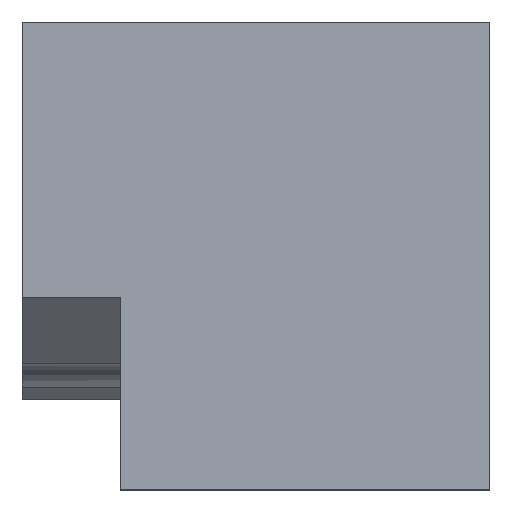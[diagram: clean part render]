
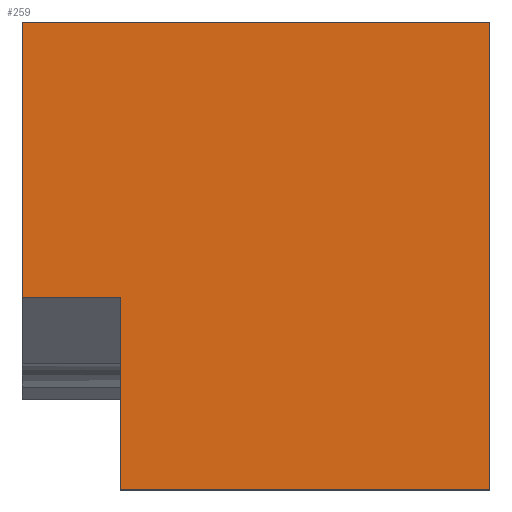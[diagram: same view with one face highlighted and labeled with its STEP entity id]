
A CAD part, top view. The second image highlights one B-rep face of the part: STEP entity #259.
In plain terms, the highlighted planar face has unit normal (0, 0, 1).
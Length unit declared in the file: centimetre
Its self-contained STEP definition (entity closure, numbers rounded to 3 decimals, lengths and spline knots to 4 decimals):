
#4 = EDGE_LOOP ( 'NONE', ( #295, #409, #300, #165, #25, #334 ) ) ;
#25 = ORIENTED_EDGE ( 'NONE', *, *, #272, .T. ) ;
#27 = CARTESIAN_POINT ( 'NONE',  ( 0., 0., 1000. ) ) ;
#28 = EDGE_CURVE ( 'NONE', #364, #390, #196, .T. ) ;
#29 = DIRECTION ( 'NONE',  ( 0., -1., 0. ) ) ;
#49 = CARTESIAN_POINT ( 'NONE',  ( 0., 1000., 1000. ) ) ;
#64 = VECTOR ( 'NONE', #408, 100. ) ;
#68 = DIRECTION ( 'NONE',  ( -1., 0., 0. ) ) ;
#71 = CARTESIAN_POINT ( 'NONE',  ( 210.074, 0., 1000. ) ) ;
#84 = LINE ( 'NONE', #436, #64 ) ;
#102 = EDGE_CURVE ( 'NONE', #214, #348, #275, .T. ) ;
#107 = CARTESIAN_POINT ( 'NONE',  ( 210.074, 410.5406, 1000. ) ) ;
#117 = VECTOR ( 'NONE', #68, 100. ) ;
#137 = CARTESIAN_POINT ( 'NONE',  ( 210.074, 0., 1000. ) ) ;
#165 = ORIENTED_EDGE ( 'NONE', *, *, #429, .T. ) ;
#182 = EDGE_CURVE ( 'NONE', #188, #390, #426, .T. ) ;
#186 = VERTEX_POINT ( 'NONE', #291 ) ;
#188 = VERTEX_POINT ( 'NONE', #107 ) ;
#196 = LINE ( 'NONE', #238, #242 ) ;
#211 = LINE ( 'NONE', #71, #412 ) ;
#212 = EDGE_CURVE ( 'NONE', #214, #188, #211, .T. ) ;
#214 = VERTEX_POINT ( 'NONE', #137 ) ;
#223 = CARTESIAN_POINT ( 'NONE',  ( 0., 410.5406, 1000. ) ) ;
#225 = CARTESIAN_POINT ( 'NONE',  ( 1000., 1000., 1000. ) ) ;
#227 = CARTESIAN_POINT ( 'NONE',  ( 1000., 0., 1000. ) ) ;
#238 = CARTESIAN_POINT ( 'NONE',  ( 0., 1000., 1000. ) ) ;
#242 = VECTOR ( 'NONE', #29, 100. ) ;
#259 = ADVANCED_FACE ( 'NONE', ( #320 ), #363, .T. ) ;
#260 = CARTESIAN_POINT ( 'NONE',  ( 0., 0., 1000. ) ) ;
#272 = EDGE_CURVE ( 'NONE', #186, #364, #84, .T. ) ;
#275 = LINE ( 'NONE', #27, #308 ) ;
#291 = CARTESIAN_POINT ( 'NONE',  ( 1000., 1000., 1000. ) ) ;
#295 = ORIENTED_EDGE ( 'NONE', *, *, #182, .F. ) ;
#296 = DIRECTION ( 'NONE',  ( 0., 0., 1. ) ) ;
#300 = ORIENTED_EDGE ( 'NONE', *, *, #102, .T. ) ;
#308 = VECTOR ( 'NONE', #414, 100. ) ;
#320 = FACE_OUTER_BOUND ( 'NONE', #4, .T. ) ;
#334 = ORIENTED_EDGE ( 'NONE', *, *, #28, .T. ) ;
#348 = VERTEX_POINT ( 'NONE', #227 ) ;
#361 = DIRECTION ( 'NONE',  ( 1., 0., 0. ) ) ;
#363 = PLANE ( 'NONE',  #380 ) ;
#364 = VERTEX_POINT ( 'NONE', #49 ) ;
#370 = DIRECTION ( 'NONE',  ( 0., 1., 0. ) ) ;
#374 = VECTOR ( 'NONE', #370, 100. ) ;
#380 = AXIS2_PLACEMENT_3D ( 'NONE', #260, #296, #361 ) ;
#390 = VERTEX_POINT ( 'NONE', #223 ) ;
#406 = LINE ( 'NONE', #225, #374 ) ;
#408 = DIRECTION ( 'NONE',  ( -1., 0., 0. ) ) ;
#409 = ORIENTED_EDGE ( 'NONE', *, *, #212, .F. ) ;
#412 = VECTOR ( 'NONE', #466, 100. ) ;
#414 = DIRECTION ( 'NONE',  ( 1., 0., 0. ) ) ;
#426 = LINE ( 'NONE', #431, #117 ) ;
#429 = EDGE_CURVE ( 'NONE', #348, #186, #406, .T. ) ;
#431 = CARTESIAN_POINT ( 'NONE',  ( 210.074, 410.5406, 1000. ) ) ;
#436 = CARTESIAN_POINT ( 'NONE',  ( 0., 1000., 1000. ) ) ;
#466 = DIRECTION ( 'NONE',  ( 0., 1., 0. ) ) ;
